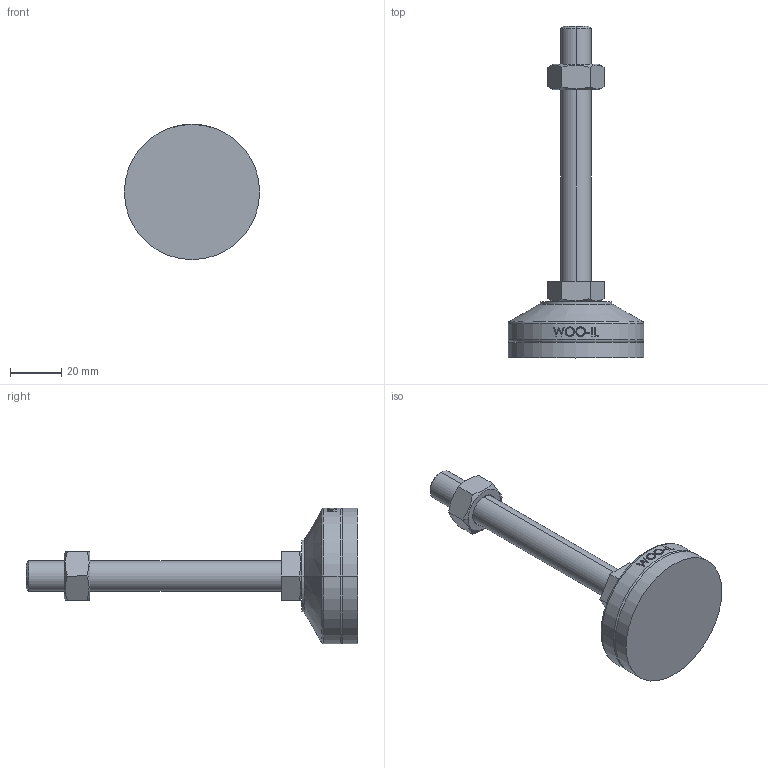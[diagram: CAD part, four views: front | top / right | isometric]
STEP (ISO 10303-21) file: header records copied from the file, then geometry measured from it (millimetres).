
FILE_DESCRIPTION (( 'STEP AP214' ), '1' );
FILE_NAME ('MFR53-M12-100.step', '2021-01-13T05:34:51', ( '' ), ( '' ), 'SwSTEP 2.0', 'SolidWorks 2019', '' );
FILE_SCHEMA (( 'AUTOMOTIVE_DESIGN' ));
Length unit declared in the file: millimetre
Products named in the file (2): MFR53-M12-100
Bounding box: 53 x 130 x 53 mm (x, y, z)
Volume: 56675.7 mm3; surface area: 17635.2 mm2
Topology: 4 solids, 4 shells, 103 faces, 235 edges, 150 vertices
Faces by surface type: plane 49, cylinder 18, bspline 16, cone 14, torus 6
Entity records: 4309 total; most frequent: CARTESIAN_POINT 2036, ORIENTED_EDGE 470, DIRECTION 417, EDGE_CURVE 235, AXIS2_PLACEMENT_3D 159, VERTEX_POINT 150, EDGE_LOOP 115, ADVANCED_FACE 103
